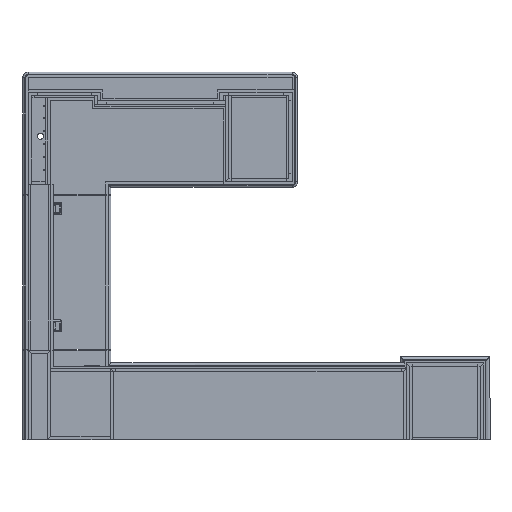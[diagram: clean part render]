
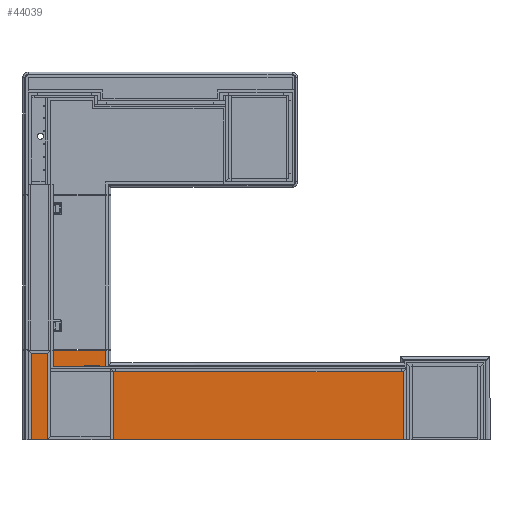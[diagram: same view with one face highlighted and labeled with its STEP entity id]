
A CAD part, front view. The second image highlights one B-rep face of the part: STEP entity #44039.
In plain terms, the highlighted planar face has unit normal (0, -1, 0).
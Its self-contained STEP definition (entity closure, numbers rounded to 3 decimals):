
#9597=FACE_OUTER_BOUND('',#12036,.T.);
#12036=EDGE_LOOP('',(#39194,#39195,#39196,#39197,#39198,#39199));
#15863=LINE('',#77888,#19896);
#15866=LINE('',#77894,#19899);
#15868=LINE('',#77898,#19901);
#15873=LINE('',#77907,#19906);
#15874=LINE('',#77910,#19907);
#15877=LINE('',#77915,#19910);
#19896=VECTOR('',#59500,0.394);
#19899=VECTOR('',#59505,0.394);
#19901=VECTOR('',#59509,0.394);
#19906=VECTOR('',#59516,0.394);
#19907=VECTOR('',#59519,0.394);
#19910=VECTOR('',#59524,0.394);
#23510=VERTEX_POINT('',#77885);
#23511=VERTEX_POINT('',#77887);
#23513=VERTEX_POINT('',#77893);
#23514=VERTEX_POINT('',#77897);
#23517=VERTEX_POINT('',#77905);
#23518=VERTEX_POINT('',#77909);
#28785=EDGE_CURVE('',#23511,#23510,#15863,.T.);
#28788=EDGE_CURVE('',#23513,#23511,#15866,.T.);
#28790=EDGE_CURVE('',#23513,#23514,#15868,.T.);
#28795=EDGE_CURVE('',#23517,#23510,#15873,.T.);
#28796=EDGE_CURVE('',#23518,#23517,#15874,.T.);
#28799=EDGE_CURVE('',#23514,#23518,#15877,.T.);
#39194=ORIENTED_EDGE('',*,*,#28785,.T.);
#39195=ORIENTED_EDGE('',*,*,#28795,.F.);
#39196=ORIENTED_EDGE('',*,*,#28796,.F.);
#39197=ORIENTED_EDGE('',*,*,#28799,.F.);
#39198=ORIENTED_EDGE('',*,*,#28790,.F.);
#39199=ORIENTED_EDGE('',*,*,#28788,.T.);
#41753=PLANE('',#48757);
#44039=ADVANCED_FACE('',(#9597),#41753,.F.);
#48757=AXIS2_PLACEMENT_3D('',#77918,#59528,#59529);
#59500=DIRECTION('',(0.,0.,1.));
#59505=DIRECTION('',(-1.,0.,0.));
#59509=DIRECTION('',(0.,0.,-1.));
#59516=DIRECTION('',(1.,0.,0.));
#59519=DIRECTION('',(0.,0.,1.));
#59524=DIRECTION('',(-1.,0.,0.));
#59528=DIRECTION('center_axis',(0.,1.,0.));
#59529=DIRECTION('ref_axis',(0.,0.,1.));
#77885=CARTESIAN_POINT('',(24.,0.,0.));
#77887=CARTESIAN_POINT('',(24.,0.,-5.75));
#77888=CARTESIAN_POINT('',(24.,0.,-7.));
#77893=CARTESIAN_POINT('',(118.,0.,-5.75));
#77894=CARTESIAN_POINT('',(41.5,0.,-5.75));
#77897=CARTESIAN_POINT('',(118.,0.,-28.));
#77898=CARTESIAN_POINT('',(118.,0.,0.));
#77905=CARTESIAN_POINT('',(0.,0.,0.));
#77907=CARTESIAN_POINT('',(0.,0.,0.));
#77909=CARTESIAN_POINT('',(0.,0.,-28.));
#77910=CARTESIAN_POINT('',(0.,0.,-28.));
#77915=CARTESIAN_POINT('',(118.,0.,-28.));
#77918=CARTESIAN_POINT('Origin',(59.,0.,-14.));
